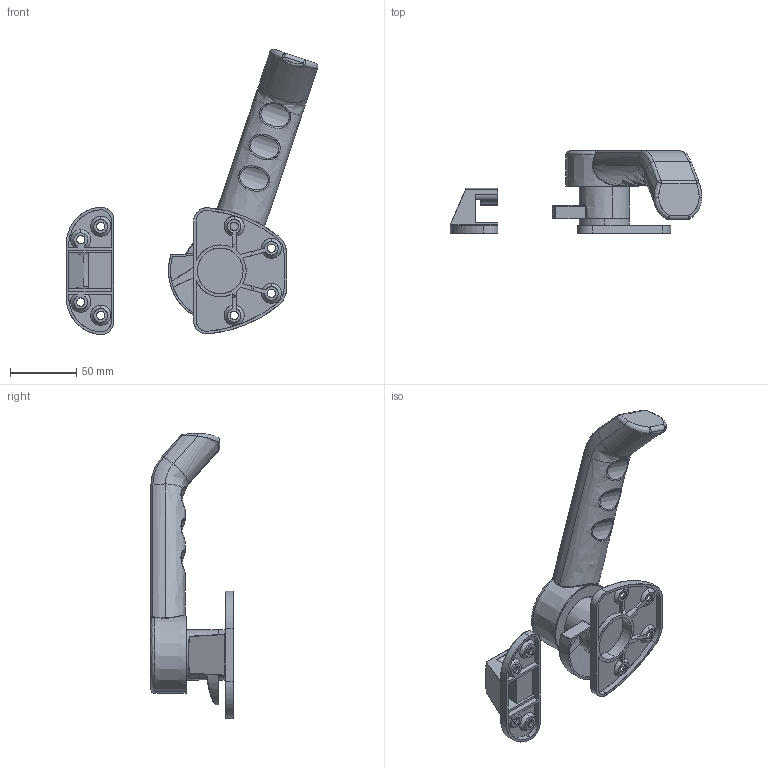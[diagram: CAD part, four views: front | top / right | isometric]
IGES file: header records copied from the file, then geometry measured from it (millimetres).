
Start section: SolidWorks IGES file using analytic representation for surfaces
Global section: file name: D:\尚坤工业图纸\SK1--门锁系列\SK1-8119-2\SK1-8119-2.IGS; native system: SolidWorks 2015; preprocessor: SolidWorks 2015; author: admin; date: 181101.114734; units: millimetre
Bounding box: 189.47 x 62 x 214.73 mm (x, y, z)
Surface area: 64163.3 mm2 (no closed solid volume)
Topology: 0 solids, 0 shells, 341 faces, 4374 edges, 4363 vertices
Faces by surface type: revolution 187, bspline 154
